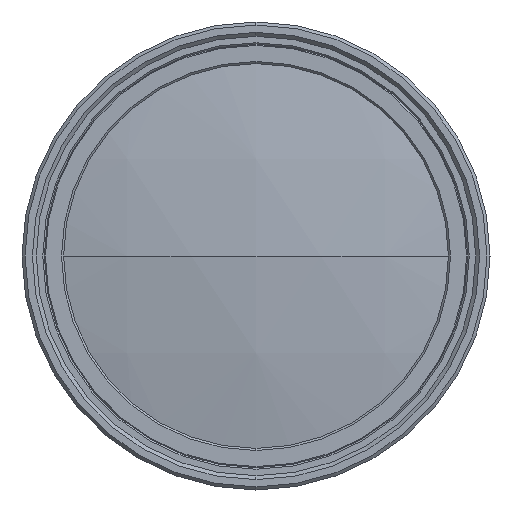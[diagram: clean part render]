
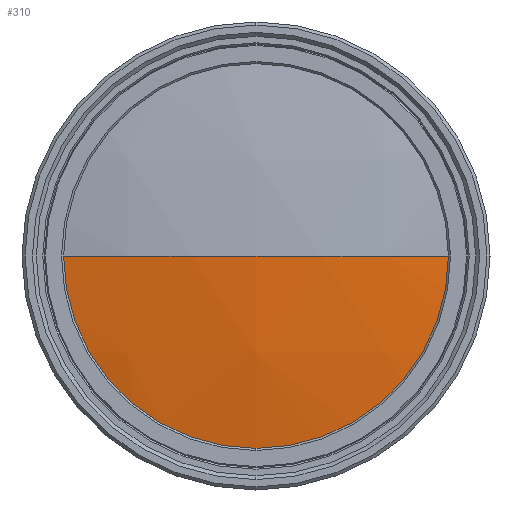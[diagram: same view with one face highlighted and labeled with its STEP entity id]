
A CAD part, left-side view. The second image highlights one B-rep face of the part: STEP entity #310.
In plain terms, the highlighted spherical face has radius 99.8 mm.
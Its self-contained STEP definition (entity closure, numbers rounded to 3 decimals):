
#74 = DIRECTION ( 'NONE',  ( -1., 0., 0. ) ) ;
#167 = DIRECTION ( 'NONE',  ( 0., 0., 1. ) ) ;
#310 = ADVANCED_FACE ( 'NONE', ( #464 ), #1888, .T. ) ;
#464 = FACE_OUTER_BOUND ( 'NONE', #3058, .T. ) ;
#474 = VERTEX_POINT ( 'NONE', #779 ) ;
#488 = CARTESIAN_POINT ( 'NONE',  ( 103.638, 0., 0. ) ) ;
#490 = EDGE_CURVE ( 'NONE', #629, #813, #3309, .T. ) ;
#629 = VERTEX_POINT ( 'NONE', #1590 ) ;
#630 = EDGE_CURVE ( 'NONE', #3118, #629, #1449, .T. ) ;
#633 = CIRCLE ( 'NONE', #2350, 18.6 ) ;
#752 = CARTESIAN_POINT ( 'NONE',  ( 103.638, 0., 0. ) ) ;
#775 = AXIS2_PLACEMENT_3D ( 'NONE', #1000, #2799, #1258 ) ;
#779 = CARTESIAN_POINT ( 'NONE',  ( 5.587, 18.6, 0. ) ) ;
#813 = VERTEX_POINT ( 'NONE', #1825 ) ;
#957 = ORIENTED_EDGE ( 'NONE', *, *, #490, .T. ) ;
#1000 = CARTESIAN_POINT ( 'NONE',  ( 103.638, 0., 0. ) ) ;
#1005 = DIRECTION ( 'NONE',  ( 0., 1., 0. ) ) ;
#1018 = AXIS2_PLACEMENT_3D ( 'NONE', #1608, #74, #1856 ) ;
#1258 = DIRECTION ( 'NONE',  ( 1., 0., 0. ) ) ;
#1449 = CIRCLE ( 'NONE', #1018, 18.6 ) ;
#1590 = CARTESIAN_POINT ( 'NONE',  ( 5.587, -18.6, 0. ) ) ;
#1601 = AXIS2_PLACEMENT_3D ( 'NONE', #752, #2546, #1005 ) ;
#1608 = CARTESIAN_POINT ( 'NONE',  ( 5.587, 0., 0. ) ) ;
#1710 = DIRECTION ( 'NONE',  ( -1., 0., 0. ) ) ;
#1825 = CARTESIAN_POINT ( 'NONE',  ( 3.838, 0., 0. ) ) ;
#1856 = DIRECTION ( 'NONE',  ( 0., 0., 1. ) ) ;
#1888 = SPHERICAL_SURFACE ( 'NONE', #2348, 99.8 ) ;
#2007 = DIRECTION ( 'NONE',  ( 0., 0., -1. ) ) ;
#2094 = EDGE_CURVE ( 'NONE', #474, #3118, #633, .T. ) ;
#2348 = AXIS2_PLACEMENT_3D ( 'NONE', #488, #2007, #2530 ) ;
#2350 = AXIS2_PLACEMENT_3D ( 'NONE', #3258, #1710, #167 ) ;
#2530 = DIRECTION ( 'NONE',  ( 0., 1., 0. ) ) ;
#2546 = DIRECTION ( 'NONE',  ( 0., 0., -1. ) ) ;
#2728 = ORIENTED_EDGE ( 'NONE', *, *, #2094, .T. ) ;
#2799 = DIRECTION ( 'NONE',  ( 0., 0., 1. ) ) ;
#2856 = ORIENTED_EDGE ( 'NONE', *, *, #2877, .F. ) ;
#2877 = EDGE_CURVE ( 'NONE', #474, #813, #3099, .T. ) ;
#2936 = ORIENTED_EDGE ( 'NONE', *, *, #630, .T. ) ;
#2954 = CARTESIAN_POINT ( 'NONE',  ( 5.587, 0., -18.6 ) ) ;
#3058 = EDGE_LOOP ( 'NONE', ( #2936, #957, #2856, #2728 ) ) ;
#3099 = CIRCLE ( 'NONE', #775, 99.8 ) ;
#3118 = VERTEX_POINT ( 'NONE', #2954 ) ;
#3258 = CARTESIAN_POINT ( 'NONE',  ( 5.587, 0., 0. ) ) ;
#3309 = CIRCLE ( 'NONE', #1601, 99.8 ) ;
